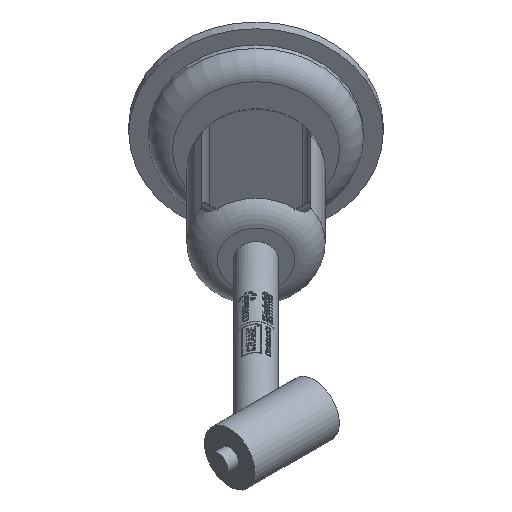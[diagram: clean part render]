
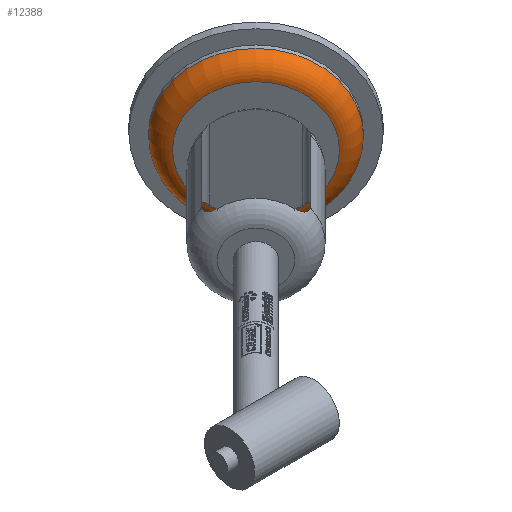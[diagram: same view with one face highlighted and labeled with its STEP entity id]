
A CAD part, isometric view. The second image highlights one B-rep face of the part: STEP entity #12388.
In plain terms, the highlighted toroidal (fillet/blend) face has major radius 70.868 mm and minor radius 20.279 mm.
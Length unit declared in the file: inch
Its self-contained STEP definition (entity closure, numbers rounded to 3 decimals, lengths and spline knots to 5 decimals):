
#2075 = CARTESIAN_POINT ( 'NONE',  ( 11.7775, 12.5275, 0. ) ) ;
#4919 = CARTESIAN_POINT ( 'NONE',  ( 11.7775, 12.5275, 3.58843 ) ) ;
#6309 = DIRECTION ( 'NONE',  ( 0.707, 0.707, 0. ) ) ;
#6608 = EDGE_CURVE ( 'NONE', #23667, #23667, #20829, .T. ) ;
#6733 = DIRECTION ( 'NONE',  ( 0.707, 0.707, 0. ) ) ;
#7040 = DIRECTION ( 'NONE',  ( 0., 0., 1. ) ) ;
#9212 = EDGE_LOOP ( 'NONE', ( #11787 ) ) ;
#11787 = ORIENTED_EDGE ( 'NONE', *, *, #6608, .T. ) ;
#12388 = ADVANCED_FACE ( 'NONE', ( #36021, #32362 ), #22187, .T. ) ;
#13118 = EDGE_CURVE ( 'NONE', #30242, #30242, #37720, .T. ) ;
#13641 = AXIS2_PLACEMENT_3D ( 'NONE', #2075, #32022, #39565 ) ;
#14586 = CARTESIAN_POINT ( 'NONE',  ( 11.78124, 12.53124, 0. ) ) ;
#15368 = AXIS2_PLACEMENT_3D ( 'NONE', #40089, #6733, #21579 ) ;
#20829 = CIRCLE ( 'NONE', #15368, 2.79007 ) ;
#21579 = DIRECTION ( 'NONE',  ( 0., 0., 1. ) ) ;
#22187 = TOROIDAL_SURFACE ( 'NONE', #41729, 2.79007, 0.79838 ) ;
#23667 = VERTEX_POINT ( 'NONE', #34625 ) ;
#30242 = VERTEX_POINT ( 'NONE', #4919 ) ;
#30767 = ORIENTED_EDGE ( 'NONE', *, *, #13118, .F. ) ;
#32022 = DIRECTION ( 'NONE',  ( 0.707, 0.707, 0. ) ) ;
#32025 = EDGE_LOOP ( 'NONE', ( #30767 ) ) ;
#32362 = FACE_OUTER_BOUND ( 'NONE', #32025, .T. ) ;
#34625 = CARTESIAN_POINT ( 'NONE',  ( 11.21671, 11.96671, 2.79007 ) ) ;
#36021 = FACE_OUTER_BOUND ( 'NONE', #9212, .T. ) ;
#37720 = CIRCLE ( 'NONE', #13641, 3.58843 ) ;
#39565 = DIRECTION ( 'NONE',  ( 0., 0., 1. ) ) ;
#40089 = CARTESIAN_POINT ( 'NONE',  ( 11.21671, 11.96671, 0. ) ) ;
#41729 = AXIS2_PLACEMENT_3D ( 'NONE', #14586, #6309, #7040 ) ;
